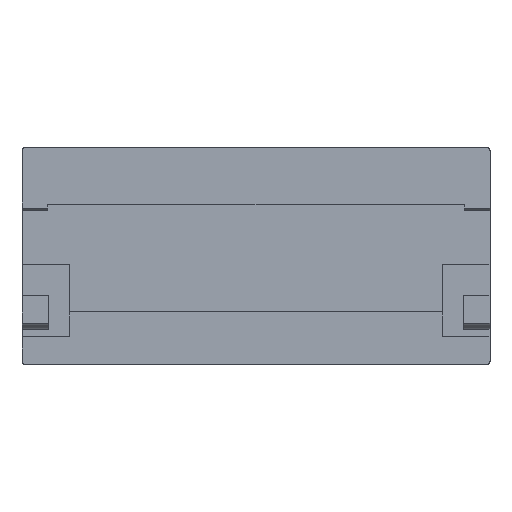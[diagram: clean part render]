
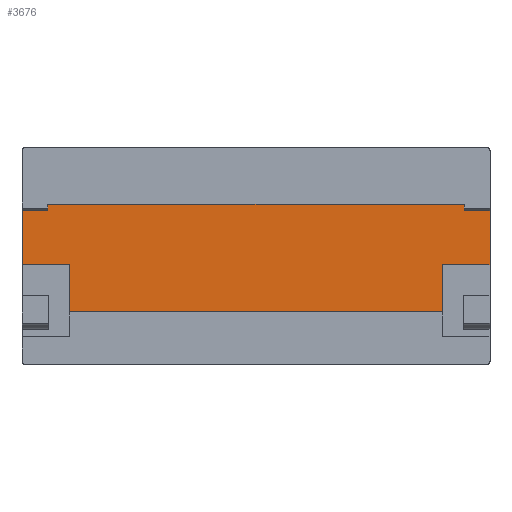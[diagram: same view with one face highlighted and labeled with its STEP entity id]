
A CAD part, front view. The second image highlights one B-rep face of the part: STEP entity #3676.
In plain terms, the highlighted planar face has unit normal (0, -1, 0).
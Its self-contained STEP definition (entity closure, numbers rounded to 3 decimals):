
#241 = CARTESIAN_POINT ( 'NONE',  ( 28.4, 2.5, -1.3 ) ) ;
#249 = CARTESIAN_POINT ( 'NONE',  ( 31.65, 2.5, 7.6 ) ) ;
#275 = VECTOR ( 'NONE', #5279, 1000. ) ;
#298 = CARTESIAN_POINT ( 'NONE',  ( -31.65, 2.5, 7.9 ) ) ;
#582 = LINE ( 'NONE', #8908, #9768 ) ;
#597 = CARTESIAN_POINT ( 'NONE',  ( -35.6, 2.5, -8.5 ) ) ;
#660 = CARTESIAN_POINT ( 'NONE',  ( 31.65, 2.5, 7.6 ) ) ;
#755 = LINE ( 'NONE', #14731, #10028 ) ;
#793 = LINE ( 'NONE', #5122, #6568 ) ;
#1038 = ORIENTED_EDGE ( 'NONE', *, *, #12553, .T. ) ;
#1110 = ORIENTED_EDGE ( 'NONE', *, *, #2520, .F. ) ;
#1134 = EDGE_LOOP ( 'NONE', ( #4843, #1437, #5557, #14248, #1038, #12360, #9191, #2218, #1679, #1110, #4634, #4703 ) ) ;
#1176 = VERTEX_POINT ( 'NONE', #5378 ) ;
#1437 = ORIENTED_EDGE ( 'NONE', *, *, #7590, .F. ) ;
#1679 = ORIENTED_EDGE ( 'NONE', *, *, #4910, .F. ) ;
#1735 = DIRECTION ( 'NONE',  ( 1., 0., 0. ) ) ;
#2218 = ORIENTED_EDGE ( 'NONE', *, *, #7900, .T. ) ;
#2506 = DIRECTION ( 'NONE',  ( 0., 0., 1. ) ) ;
#2520 = EDGE_CURVE ( 'NONE', #11000, #8288, #755, .T. ) ;
#2543 = VECTOR ( 'NONE', #7143, 1000. ) ;
#2652 = VERTEX_POINT ( 'NONE', #11170 ) ;
#3186 = DIRECTION ( 'NONE',  ( 1., 0., 0. ) ) ;
#3591 = LINE ( 'NONE', #13054, #14382 ) ;
#3619 = LINE ( 'NONE', #5318, #9409 ) ;
#3676 = ADVANCED_FACE ( 'NONE', ( #9924 ), #7099, .F. ) ;
#3685 = VERTEX_POINT ( 'NONE', #14022 ) ;
#4068 = CARTESIAN_POINT ( 'NONE',  ( -28.4, 2.5, -1.3 ) ) ;
#4372 = EDGE_CURVE ( 'NONE', #3685, #6172, #7839, .T. ) ;
#4634 = ORIENTED_EDGE ( 'NONE', *, *, #8870, .T. ) ;
#4703 = ORIENTED_EDGE ( 'NONE', *, *, #6547, .F. ) ;
#4843 = ORIENTED_EDGE ( 'NONE', *, *, #13285, .F. ) ;
#4910 = EDGE_CURVE ( 'NONE', #8288, #1176, #9076, .T. ) ;
#5020 = DIRECTION ( 'NONE',  ( 0., 0., -1. ) ) ;
#5122 = CARTESIAN_POINT ( 'NONE',  ( -35.6, 2.5, -1.3 ) ) ;
#5279 = DIRECTION ( 'NONE',  ( 1., 0., 0. ) ) ;
#5318 = CARTESIAN_POINT ( 'NONE',  ( -35.6, 2.5, 7.9 ) ) ;
#5378 = CARTESIAN_POINT ( 'NONE',  ( 31.65, 2.5, 7.9 ) ) ;
#5463 = CARTESIAN_POINT ( 'NONE',  ( 31.65, 2.5, 7.6 ) ) ;
#5557 = ORIENTED_EDGE ( 'NONE', *, *, #11825, .T. ) ;
#5942 = CARTESIAN_POINT ( 'NONE',  ( 28.4, 2.5, -8.5 ) ) ;
#6172 = VERTEX_POINT ( 'NONE', #11529 ) ;
#6537 = LINE ( 'NONE', #14563, #12263 ) ;
#6547 = EDGE_CURVE ( 'NONE', #9914, #12857, #3619, .T. ) ;
#6568 = VECTOR ( 'NONE', #10842, 1000. ) ;
#6570 = DIRECTION ( 'NONE',  ( 0., 0., 1. ) ) ;
#6572 = DIRECTION ( 'NONE',  ( -1., 0., 0. ) ) ;
#7047 = VECTOR ( 'NONE', #11787, 1000. ) ;
#7099 = PLANE ( 'NONE',  #13230 ) ;
#7143 = DIRECTION ( 'NONE',  ( 0., 0., 1. ) ) ;
#7489 = VERTEX_POINT ( 'NONE', #660 ) ;
#7590 = EDGE_CURVE ( 'NONE', #2652, #13785, #6537, .T. ) ;
#7628 = DIRECTION ( 'NONE',  ( 0., 0., 1. ) ) ;
#7822 = VECTOR ( 'NONE', #1735, 1000. ) ;
#7839 = LINE ( 'NONE', #9848, #13582 ) ;
#7900 = EDGE_CURVE ( 'NONE', #7489, #1176, #11359, .T. ) ;
#8239 = CARTESIAN_POINT ( 'NONE',  ( -35.6, 2.5, 7.9 ) ) ;
#8288 = VERTEX_POINT ( 'NONE', #298 ) ;
#8870 = EDGE_CURVE ( 'NONE', #11000, #12857, #13152, .T. ) ;
#8908 = CARTESIAN_POINT ( 'NONE',  ( -35.6, 2.5, -1.3 ) ) ;
#9076 = LINE ( 'NONE', #12168, #275 ) ;
#9191 = ORIENTED_EDGE ( 'NONE', *, *, #12259, .F. ) ;
#9409 = VECTOR ( 'NONE', #7628, 1000. ) ;
#9424 = DIRECTION ( 'NONE',  ( 0., 1., 0. ) ) ;
#9768 = VECTOR ( 'NONE', #6572, 1000. ) ;
#9848 = CARTESIAN_POINT ( 'NONE',  ( 35.6, 2.5, 7.9 ) ) ;
#9914 = VERTEX_POINT ( 'NONE', #12951 ) ;
#9924 = FACE_OUTER_BOUND ( 'NONE', #1134, .T. ) ;
#10028 = VECTOR ( 'NONE', #6570, 1000. ) ;
#10353 = CARTESIAN_POINT ( 'NONE',  ( -35.6, 2.5, 7.6 ) ) ;
#10639 = CARTESIAN_POINT ( 'NONE',  ( -31.65, 2.5, 7.6 ) ) ;
#10842 = DIRECTION ( 'NONE',  ( 1., 0., 0. ) ) ;
#10982 = DIRECTION ( 'NONE',  ( 0., 0., 1. ) ) ;
#11000 = VERTEX_POINT ( 'NONE', #11426 ) ;
#11105 = DIRECTION ( 'NONE',  ( 0., 0., 1. ) ) ;
#11158 = VERTEX_POINT ( 'NONE', #5942 ) ;
#11170 = CARTESIAN_POINT ( 'NONE',  ( -28.4, 2.5, -8.5 ) ) ;
#11359 = LINE ( 'NONE', #249, #2543 ) ;
#11426 = CARTESIAN_POINT ( 'NONE',  ( -31.65, 2.5, 7.6 ) ) ;
#11529 = CARTESIAN_POINT ( 'NONE',  ( 35.6, 2.5, 7.6 ) ) ;
#11787 = DIRECTION ( 'NONE',  ( -1., 0., 0. ) ) ;
#11825 = EDGE_CURVE ( 'NONE', #2652, #11158, #13941, .T. ) ;
#12168 = CARTESIAN_POINT ( 'NONE',  ( -35.6, 2.5, 7.9 ) ) ;
#12259 = EDGE_CURVE ( 'NONE', #7489, #6172, #13924, .T. ) ;
#12263 = VECTOR ( 'NONE', #11105, 1000. ) ;
#12360 = ORIENTED_EDGE ( 'NONE', *, *, #4372, .T. ) ;
#12553 = EDGE_CURVE ( 'NONE', #13018, #3685, #793, .T. ) ;
#12857 = VERTEX_POINT ( 'NONE', #10353 ) ;
#12951 = CARTESIAN_POINT ( 'NONE',  ( -35.6, 2.5, -1.3 ) ) ;
#13018 = VERTEX_POINT ( 'NONE', #241 ) ;
#13054 = CARTESIAN_POINT ( 'NONE',  ( 28.4, 2.5, 7.9 ) ) ;
#13152 = LINE ( 'NONE', #10639, #7047 ) ;
#13230 = AXIS2_PLACEMENT_3D ( 'NONE', #8239, #9424, #2506 ) ;
#13285 = EDGE_CURVE ( 'NONE', #13785, #9914, #582, .T. ) ;
#13582 = VECTOR ( 'NONE', #10982, 1000. ) ;
#13785 = VERTEX_POINT ( 'NONE', #4068 ) ;
#13924 = LINE ( 'NONE', #5463, #14281 ) ;
#13941 = LINE ( 'NONE', #597, #7822 ) ;
#14022 = CARTESIAN_POINT ( 'NONE',  ( 35.6, 2.5, -1.3 ) ) ;
#14246 = EDGE_CURVE ( 'NONE', #13018, #11158, #3591, .T. ) ;
#14248 = ORIENTED_EDGE ( 'NONE', *, *, #14246, .F. ) ;
#14281 = VECTOR ( 'NONE', #3186, 1000. ) ;
#14382 = VECTOR ( 'NONE', #5020, 1000. ) ;
#14563 = CARTESIAN_POINT ( 'NONE',  ( -28.4, 2.5, 7.9 ) ) ;
#14731 = CARTESIAN_POINT ( 'NONE',  ( -31.65, 2.5, 7.6 ) ) ;
